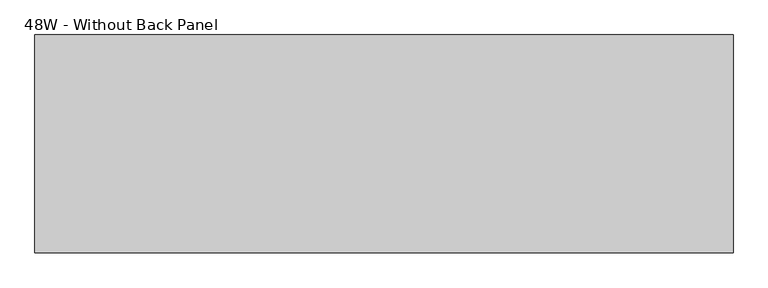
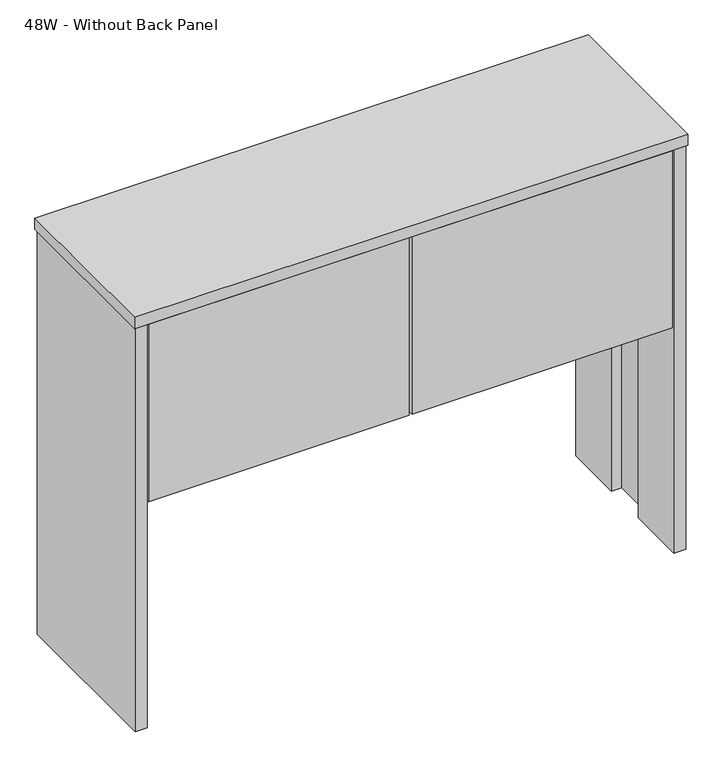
"""IFC4 building model written with IfcOpenShell, lengths in millimetres: furniture geometry, Steelcase - Kick Freestanding - Overhead Storage Cabinet With Hinge Door : 48W - Without Back Panel."""

import ifcopenshell
import ifcopenshell.guid

model = None  # the IFC model being written
_history = None  # IfcOwnerHistory: only IFC2X3 demands one
_inside = {}  # id of a spatial element -> (the spatial element, [elements in it])
_under = {}  # id of a project, library or spatial element -> (it, [spatial elements below it])
_declared = {}  # id of a project -> (the project, [libraries it declares])
_typed = {}  # id of a type object -> (the type object, [elements of that type])
_made_of = {}  # id of a material, layer set ... -> (it, [elements and type objects made of it])


def new_model(schema):
    """Start an empty IFC model of exactly this schema.

    Asked for "IFC4X3", IfcOpenShell would pick the latest addendum, in which some entities
    have other attributes; the version numbers below select the first issue.
    IFC2X3 requires an IfcOwnerHistory on every rooted entity: one is made here for all.
    """
    global model, _history
    if schema == "IFC4X3":
        model = ifcopenshell.file(schema_version=(4, 3, 0, 0))
    else:
        model = ifcopenshell.file(schema=schema)
    _inside.clear()
    _under.clear()
    _declared.clear()
    _typed.clear()
    _made_of.clear()
    _history = None
    if model.schema == "IFC2X3":
        org = make("IfcOrganization", Name="unknown")
        user = make(
            "IfcPersonAndOrganization",
            ThePerson=make("IfcPerson", FamilyName="unknown"),
            TheOrganization=org,
        )
        app = make(
            "IfcApplication",
            ApplicationDeveloper=org,
            Version="unknown",
            ApplicationFullName="unknown",
            ApplicationIdentifier="unknown",
        )
        _history = make(
            "IfcOwnerHistory",
            OwningUser=user,
            OwningApplication=app,
            ChangeAction="ADDED",
            CreationDate=0,
        )
    return model


def make(cls, **values):
    """One entity of the class cls with the attributes given. An attribute that is None is left unset."""
    return model.create_entity(
        cls, **{name: value for name, value in values.items() if value is not None}
    )


def rooted(cls, **values):
    """An entity with a GlobalId (a new one), such as an element, a storey or a relation."""
    return make(cls, GlobalId=ifcopenshell.guid.new(), OwnerHistory=_history, **values)


def si_unit(unit_type, name, prefix=None):
    """IfcSIUnit, for example si_unit("LENGTHUNIT", "METRE", prefix="MILLI")."""
    return make("IfcSIUnit", UnitType=unit_type, Prefix=prefix, Name=name)


def assignment(units):
    """IfcUnitAssignment: the units of a project."""
    return None if units is None else make("IfcUnitAssignment", Units=units)


def point(xyz):
    """IfcCartesianPoint."""
    return None if xyz is None else make("IfcCartesianPoint", Coordinates=xyz)


def direction(xyz):
    """IfcDirection."""
    return None if xyz is None else make("IfcDirection", DirectionRatios=xyz)


def frame(location, z_axis=None, x_axis=None):
    """IfcAxis2Placement3D, a coordinate frame: its origin and axes. An axis left out is left unset."""
    return make(
        "IfcAxis2Placement3D",
        Location=point(location),
        Axis=direction(z_axis),
        RefDirection=direction(x_axis),
    )


def origin():
    """The frame at (0, 0, 0) with its axes left unset."""
    return frame((0.0, 0.0, 0.0))


def place(relative_to, where):
    """IfcLocalPlacement: puts the frame where relative to a parent placement (None: the world)."""
    return make(
        "IfcLocalPlacement", PlacementRelTo=relative_to, RelativePlacement=where
    )


def context(
    kind, dimensions, precision=None, world=None, true_north=None, identifier=None
):
    """IfcGeometricRepresentationContext, for example the 3D "Model" context."""
    return make(
        "IfcGeometricRepresentationContext",
        ContextIdentifier=identifier,
        ContextType=kind,
        CoordinateSpaceDimension=dimensions,
        Precision=precision,
        WorldCoordinateSystem=world,
        TrueNorth=true_north,
    )


def project(units=None, contexts=None):
    """IfcProject with its units and contexts."""
    return rooted(
        "IfcProject",
        Name="project",
        RepresentationContexts=contexts,
        UnitsInContext=assignment(units),
    )


def spatial(cls, under=None, at=None, **own):
    """A site, building, storey or space (cls), placed at a placement, below another one or the project."""
    s = rooted(cls, ObjectPlacement=at, **own)
    if under is not None:
        _under.setdefault(under.id(), (under, []))[1].append(s)
    return s


def polyline(points):
    """IfcPolyline through the points."""
    return make("IfcPolyline", Points=[point(p) for p in points])


def outline(outer, holes=None, kind="AREA"):
    """IfcArbitraryClosedProfileDef: a profile drawn as a closed curve; with holes, ...WithVoids."""
    if holes is None:
        return make("IfcArbitraryClosedProfileDef", ProfileType=kind, OuterCurve=outer)
    return make(
        "IfcArbitraryProfileDefWithVoids",
        ProfileType=kind,
        OuterCurve=outer,
        InnerCurves=holes,
    )


def extrude(swept, where, along, depth):
    """IfcExtrudedAreaSolid: the profile swept, set in the frame where, extruded along a direction by depth."""
    return make(
        "IfcExtrudedAreaSolid",
        SweptArea=swept,
        Position=where,
        ExtrudedDirection=direction(along),
        Depth=depth,
    )


def shape(context_of_items, identifier, shape_type, items):
    """IfcShapeRepresentation: the items that make up one representation, for example the "Body"."""
    return make(
        "IfcShapeRepresentation",
        ContextOfItems=context_of_items,
        RepresentationIdentifier=identifier,
        RepresentationType=shape_type,
        Items=items,
    )


def source(mapping_origin, context_of_items, identifier, shape_type, items):
    """IfcRepresentationMap: a shape defined once, which mapped items show again and again."""
    return make(
        "IfcRepresentationMap",
        MappingOrigin=mapping_origin,
        MappedRepresentation=shape(context_of_items, identifier, shape_type, items),
    )


def transform(
    local_origin,
    x_axis=None,
    y_axis=None,
    z_axis=None,
    scale=None,
    scale2=None,
    scale3=None,
    uniform=True,
):
    """IfcCartesianTransformationOperator3D, or its non-uniform kind. x_axis, y_axis, z_axis: its Axis1, 2, 3."""
    if uniform:
        return make(
            "IfcCartesianTransformationOperator3D",
            Axis1=direction(x_axis),
            Axis2=direction(y_axis),
            LocalOrigin=point(local_origin),
            Scale=scale,
            Axis3=direction(z_axis),
        )
    return make(
        "IfcCartesianTransformationOperator3DnonUniform",
        Axis1=direction(x_axis),
        Axis2=direction(y_axis),
        LocalOrigin=point(local_origin),
        Scale=scale,
        Axis3=direction(z_axis),
        Scale2=scale2,
        Scale3=scale3,
    )


def mapped(mapping_source, mapping_target):
    """IfcMappedItem: shows the shape of a source again, moved by a transform."""
    return make(
        "IfcMappedItem", MappingSource=mapping_source, MappingTarget=mapping_target
    )


def made_of(thing, what):
    """Note that an element or type object is made of a material, layer set ...; save() writes the relation."""
    if what is not None:
        _made_of.setdefault(what.id(), (what, []))[1].append(thing)
    return thing


def element(
    cls,
    number,
    at=None,
    inside=None,
    cuts=None,
    type_object=None,
    material=None,
    context=None,
    identifier="Body",
    shape_type=None,
    held_by="IfcProductDefinitionShape",
    body=None,
    shapes=None,
    **own,
):
    """One element of the class cls, such as IfcWall. Its Tag is "e" and its number.

    at: its placement. inside: the storey or other place that contains it. cuts: it is an
    opening in that element (IfcRelVoidsElement). A single representation is given by context,
    identifier, shape_type and body (its items); several are given by shapes. held_by: the class
    of the entity that holds the representations. save() writes the other relations.
    """
    e = rooted(cls, Tag="e%d" % number, ObjectPlacement=at, **own)
    if body is not None:
        shapes = [shape(context, identifier, shape_type, body)]
    if shapes is not None:
        e.Representation = make(held_by, Representations=shapes)
    if inside is not None:
        _inside.setdefault(inside.id(), (inside, []))[1].append(e)
    if cuts is not None:
        rooted(
            "IfcRelVoidsElement", RelatingBuildingElement=cuts, RelatedOpeningElement=e
        )
    if type_object is not None:
        _typed.setdefault(type_object.id(), (type_object, []))[1].append(e)
    return made_of(e, material)


def aggregate(whole, parts):
    """IfcRelAggregates: a whole, such as a stair, and the parts it consists of."""
    return rooted("IfcRelAggregates", RelatingObject=whole, RelatedObjects=parts)


def save(model, path):
    """Write the relations noted so far, then the file.

    IfcRelAggregates (storeys below a building ...), IfcRelContainedInSpatialStructure (elements
    in a storey), IfcRelDefinesByType, IfcRelAssociatesMaterial and IfcRelDeclares: one each for
    every whole, place, type object, material and project.
    """
    for whole, parts in _under.values():
        aggregate(whole, parts)
    for where, things in _inside.values():
        rooted(
            "IfcRelContainedInSpatialStructure",
            RelatedElements=things,
            RelatingStructure=where,
        )
    for kind, things in _typed.values():
        rooted("IfcRelDefinesByType", RelatedObjects=things, RelatingType=kind)
    for what, things in _made_of.values():
        rooted("IfcRelAssociatesMaterial", RelatedObjects=things, RelatingMaterial=what)
    for by, libraries in _declared.values():
        rooted("IfcRelDeclares", RelatingContext=by, RelatedDefinitions=libraries)
    model.write(path)


def furniture_48w_without_back_panel_1865785f(model_context):
    return source(origin(), model_context, "Body", "SweptSolid", [
        extrude(outline(polyline([(1180.7618992, -28.5781763), (1206.2872195, -28.5781763), (1206.2872195, -396.8781725), (1180.7618992, -396.8781725), (1180.7618992, -263.5281725), (1203.1122191, -263.5281725), (1203.1122191, -161.9281786), (1180.7618992, -161.9281786), (1180.7618992, -28.5781763)])), frame((0.0, 0.0, 495.068073), z_axis=(0.0, 0.0, 1.0), x_axis=(1.0, 0.0, 0.0)), (0.0, 0.0, 1.0), 927.1),
        extrude(outline(polyline([(612.5638992, -377.8250114), (1177.7126896, -377.8250114), (1177.7126896, -396.8750114), (612.5638992, -396.8750114), (612.5638992, -377.8250114)])), frame((0.0, 0.0, 1012.5930246), z_axis=(0.0, 0.0, 1.0), x_axis=(1.0, 0.0, 0.0)), (0.0, 0.0, 1.0), 406.4000484),
        extrude(outline(polyline([(606.2138992, -377.8250114), (606.2138992, -396.8750114), (41.0639007, -396.8750114), (41.0639007, -377.8250114), (606.2138992, -377.8250114)])), frame((0.0, 0.0, 1012.5930246), z_axis=(0.0, 0.0, 1.0), x_axis=(1.0, 0.0, 0.0)), (0.0, 0.0, 1.0), 406.4000484),
        extrude(outline(polyline([(1180.7618992, -53.9789719), (38.0158992, -53.9789719), (38.0158992, -28.5789734), (1180.7618992, -28.5789734), (1180.7618992, -53.9789719)])), frame((0.0, 0.0, 1012.720073), z_axis=(0.0, 0.0, 1.0), x_axis=(1.0, 0.0, 0.0)), (0.0, 0.0, 1.0), 409.448),
        extrude(outline(polyline([(38.0158992, -28.5781763), (38.0158992, -161.9281786), (15.6638988, -161.9281786), (15.6638988, -263.5281725), (38.0158992, -263.5281725), (38.0158992, -396.8781725), (12.4888985, -396.8781725), (12.4888985, -28.5781763), (38.0158992, -28.5781763)])), frame((0.0, 0.0, 495.068073), z_axis=(0.0, 0.0, 1.0), x_axis=(1.0, 0.0, 0.0)), (0.0, 0.0, 1.0), 927.1),
        extrude(outline(polyline([(1209.4638992, -25.4), (1209.4638992, -400.05), (9.3138992, -400.05), (9.3138992, -25.4), (1209.4638992, -25.4)])), frame((0.0, 0.0, 1422.168073), z_axis=(0.0, 0.0, 1.0), x_axis=(1.0, 0.0, 0.0)), (0.0, 0.0, 1.0), 25.4),
    ])


if __name__ == "__main__":
    model = new_model("IFC4")
    model_context = context("Model", 3, world=origin())
    ifc_project = project(units=[si_unit("LENGTHUNIT", "METRE", prefix="MILLI")], contexts=[model_context])
    site = spatial("IfcSite", under=ifc_project)
    building = spatial("IfcBuilding", under=site)
    placement = place(None, origin())
    furniture_48w_without_back_panel_shape = furniture_48w_without_back_panel_1865785f(model_context)
    element("IfcFurniture", 1, ObjectType="Steelcase - Kick Freestanding - Overhead Storage Cabinet With Hinge Door : 48W - Without Back Panel", at=placement, inside=building, context=model_context, shape_type="MappedRepresentation", body=[
        mapped(furniture_48w_without_back_panel_shape, transform((0.0, 0.0, 0.0), x_axis=(1.0, 0.0, 0.0), y_axis=(0.0, 1.0, 0.0), z_axis=(0.0, 0.0, 1.0))),
    ])
    save(model, "model.ifc")
